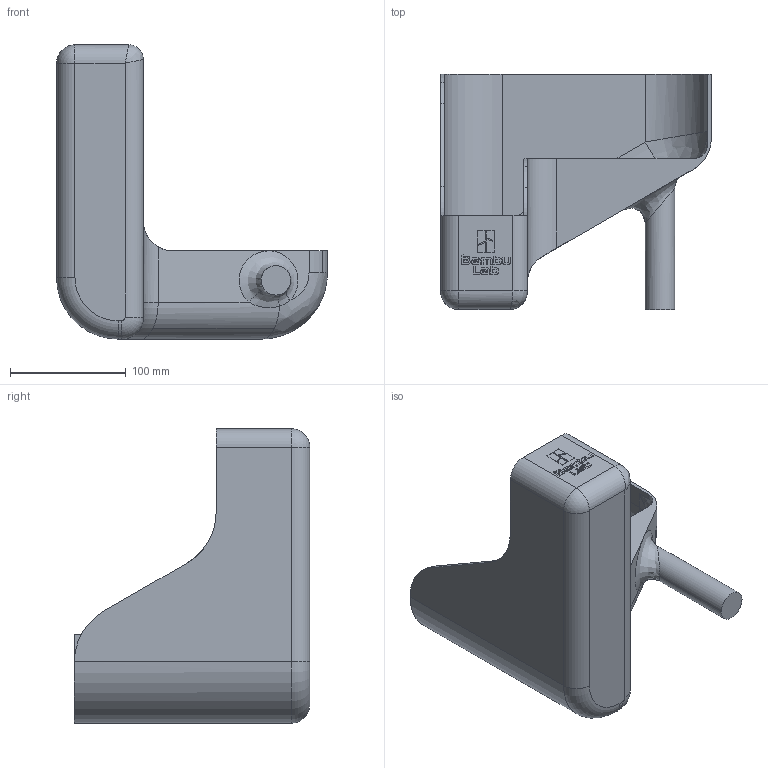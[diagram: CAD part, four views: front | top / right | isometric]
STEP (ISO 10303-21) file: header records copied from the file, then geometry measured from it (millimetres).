
FILE_DESCRIPTION (( 'STEP AP214' ), '1' );
FILE_NAME ('POOPY_SHOE_ms_edit_narrower_STEP.STEP', '2023-02-13T21:10:16', ( '' ), ( '' ), 'SwSTEP 2.0', 'SolidWorks 2021', '' );
FILE_SCHEMA (( 'AUTOMOTIVE_DESIGN' ));
Length unit declared in the file: millimetre
Products named in the file (1): POOPY_SHOE_ms_edit_narrower_STEP
Bounding box: 233.75 x 203.2 x 254 mm (x, y, z)
Volume: 479018.5 mm3; surface area: 251537.5 mm2
Topology: 1 solids, 1 shells, 245 faces, 651 edges, 421 vertices
Faces by surface type: bspline 122, plane 75, cylinder 40, torus 6, sphere 2
Entity records: 9895 total; most frequent: CARTESIAN_POINT 4683, ORIENTED_EDGE 1292, EDGE_CURVE 646, DIRECTION 609, VERTEX_POINT 421, B_SPLINE_CURVE_WITH_KNOTS 336, EDGE_LOOP 263, ADVANCED_FACE 245
